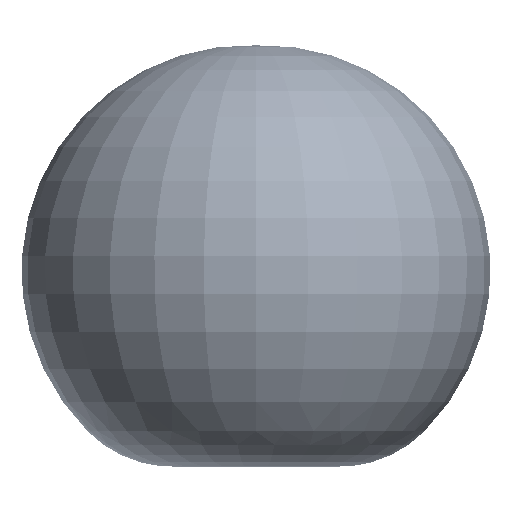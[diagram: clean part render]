
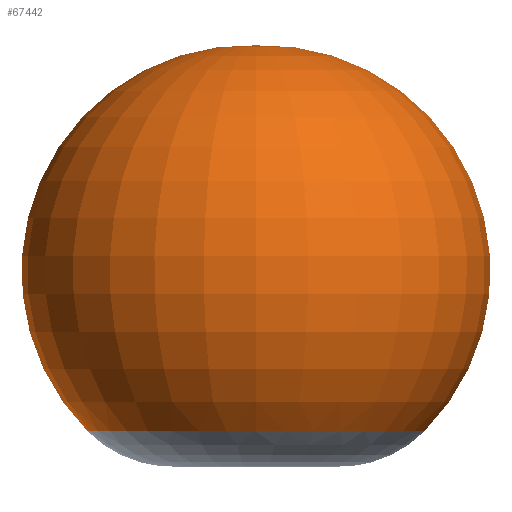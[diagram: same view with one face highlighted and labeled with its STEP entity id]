
A CAD part, front view. The second image highlights one B-rep face of the part: STEP entity #67442.
In plain terms, the highlighted toroidal (fillet/blend) face has major radius 25 mm and minor radius 684.674 mm.
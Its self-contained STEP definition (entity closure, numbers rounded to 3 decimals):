
#67442=ADVANCED_FACE('NONE',(#132758),#132759,.T.);
#132758=FACE_OUTER_BOUND('',#342817,.T.);
#132759=TOROIDAL_SURFACE('',#342818,25.0,684.674);
#342817=EDGE_LOOP('',(#501024,#501025,#501026));
#342818=AXIS2_PLACEMENT_3D('',#501027,#501028,#501029);
#501024=ORIENTED_EDGE('',*,*,#576083,.T.);
#501025=ORIENTED_EDGE('',*,*,#576084,.T.);
#501026=ORIENTED_EDGE('',*,*,#576085,.F.);
#501027=CARTESIAN_POINT('',(0.0,400.0,0.0));
#501028=DIRECTION('',(0.0,1.0,0.0));
#501029=DIRECTION('',(0.0,0.0,1.0));
#576083=EDGE_CURVE('NONE',#689081,#689082,#689083,.T.);
#576084=EDGE_CURVE('NONE',#689082,#689084,#689085,.T.);
#576085=EDGE_CURVE('NONE',#689081,#689084,#689086,.T.);
#689081=VERTEX_POINT('NONE',#942003);
#689082=VERTEX_POINT('NONE',#942004);
#689083=CIRCLE('',#942005,509.138);
#689084=VERTEX_POINT('NONE',#942006);
#689085=CIRCLE('',#942007,684.674);
#689086=CIRCLE('',#942008,684.674);
#942003=CARTESIAN_POINT('',(0.0,-84.138,509.138));
#942004=CARTESIAN_POINT('',(0.,-84.138,-509.138));
#942005=AXIS2_PLACEMENT_3D('',#1019173,#1019174,#1019175);
#942006=CARTESIAN_POINT('',(0.0,1084.218,0.0));
#942007=AXIS2_PLACEMENT_3D('',#1019176,#1019177,#1019178);
#942008=AXIS2_PLACEMENT_3D('',#1019179,#1019180,#1019181);
#1019173=CARTESIAN_POINT('',(0.0,-84.138,0.0));
#1019174=DIRECTION('',(0.0,1.0,0.0));
#1019175=DIRECTION('',(0.0,0.0,1.0));
#1019176=CARTESIAN_POINT('',(0.,400.0,-25.0));
#1019177=DIRECTION('',(1.0,0.0,0.));
#1019178=DIRECTION('',(0.,0.0,-1.0));
#1019179=CARTESIAN_POINT('',(0.0,400.0,25.0));
#1019180=DIRECTION('',(-1.0,0.0,0.0));
#1019181=DIRECTION('',(0.0,0.0,1.0));
